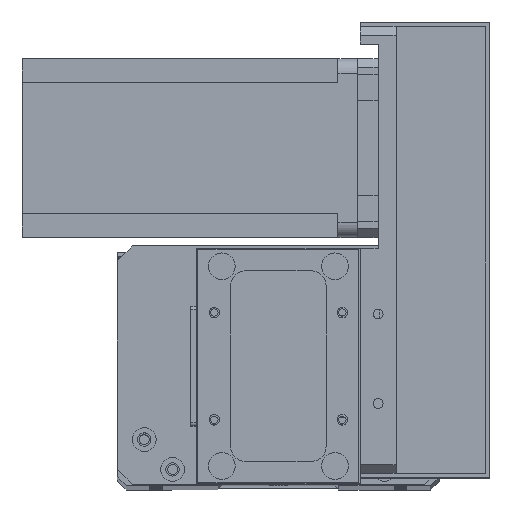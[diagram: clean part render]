
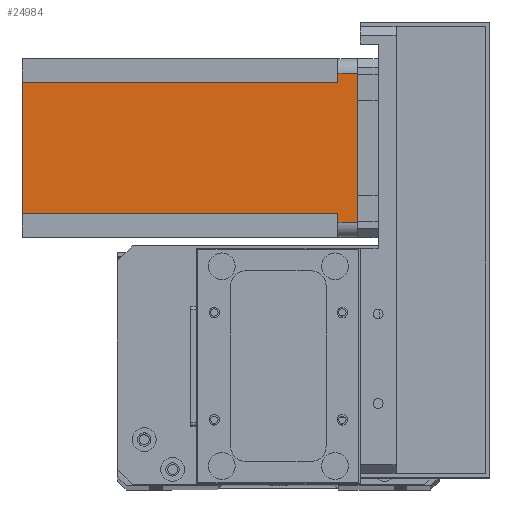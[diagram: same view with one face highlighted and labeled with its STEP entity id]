
A CAD part, top view. The second image highlights one B-rep face of the part: STEP entity #24984.
In plain terms, the highlighted planar face has unit normal (0, 0, 1) as drawn and (0, 1, 0) by its records, which use the part's own axes.
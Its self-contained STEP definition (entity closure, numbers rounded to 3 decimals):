
#7 = EDGE_CURVE ( 'NONE', #24857, #21241, #27272, .T. ) ;
#98 = AXIS2_PLACEMENT_3D ( 'NONE', #18211, #22870, #9044 ) ;
#543 = CARTESIAN_POINT ( 'NONE',  ( 0., 60., 0. ) ) ;
#2285 = ORIENTED_EDGE ( 'NONE', *, *, #14258, .F. ) ;
#2382 = DIRECTION ( 'NONE',  ( -1., 0., 0. ) ) ;
#2389 = DIRECTION ( 'NONE',  ( 1., 0., 0. ) ) ;
#2604 = CARTESIAN_POINT ( 'NONE',  ( 5., 60., -6.5 ) ) ;
#3463 = EDGE_CURVE ( 'NONE', #8084, #20281, #23944, .T. ) ;
#3582 = VECTOR ( 'NONE', #19803, 1000. ) ;
#3717 = ORIENTED_EDGE ( 'NONE', *, *, #27891, .T. ) ;
#7471 = CARTESIAN_POINT ( 'NONE',  ( 52., 60., -112.5 ) ) ;
#7543 = CARTESIAN_POINT ( 'NONE',  ( 52., 60., -112.5 ) ) ;
#8084 = VERTEX_POINT ( 'NONE', #7471 ) ;
#8323 = VECTOR ( 'NONE', #2382, 1000. ) ;
#8791 = ORIENTED_EDGE ( 'NONE', *, *, #9770, .T. ) ;
#9044 = DIRECTION ( 'NONE',  ( 0., 0., 1. ) ) ;
#9362 = DIRECTION ( 'NONE',  ( 0., 0., 1. ) ) ;
#9381 = CARTESIAN_POINT ( 'NONE',  ( 5., 60., 0. ) ) ;
#9770 = EDGE_CURVE ( 'NONE', #24857, #27266, #29523, .T. ) ;
#10266 = ORIENTED_EDGE ( 'NONE', *, *, #26355, .T. ) ;
#10477 = CARTESIAN_POINT ( 'NONE',  ( 8., 60., -6.5 ) ) ;
#10579 = LINE ( 'NONE', #25528, #17447 ) ;
#11190 = LINE ( 'NONE', #18557, #17320 ) ;
#11513 = CARTESIAN_POINT ( 'NONE',  ( 8., 60., -6.5 ) ) ;
#13259 = ORIENTED_EDGE ( 'NONE', *, *, #3463, .T. ) ;
#14258 = EDGE_CURVE ( 'NONE', #20814, #27266, #11190, .T. ) ;
#14481 = LINE ( 'NONE', #11513, #8323 ) ;
#15157 = DIRECTION ( 'NONE',  ( -1., 0., 0. ) ) ;
#16250 = CARTESIAN_POINT ( 'NONE',  ( 55., 60., -112.5 ) ) ;
#16295 = ORIENTED_EDGE ( 'NONE', *, *, #21365, .F. ) ;
#17230 = VECTOR ( 'NONE', #23207, 1000. ) ;
#17320 = VECTOR ( 'NONE', #2389, 1000. ) ;
#17447 = VECTOR ( 'NONE', #9362, 1000. ) ;
#17491 = CARTESIAN_POINT ( 'NONE',  ( 8., 60., -112.5 ) ) ;
#17812 = VECTOR ( 'NONE', #15157, 1000. ) ;
#18211 = CARTESIAN_POINT ( 'NONE',  ( 0., 60., -112.5 ) ) ;
#18557 = CARTESIAN_POINT ( 'NONE',  ( 52., 60., -6.5 ) ) ;
#18825 = LINE ( 'NONE', #7543, #24256 ) ;
#19496 = VERTEX_POINT ( 'NONE', #10477 ) ;
#19803 = DIRECTION ( 'NONE',  ( 0., 0., -1. ) ) ;
#19920 = CARTESIAN_POINT ( 'NONE',  ( 55., 60., 0. ) ) ;
#20281 = VERTEX_POINT ( 'NONE', #22758 ) ;
#20814 = VERTEX_POINT ( 'NONE', #29387 ) ;
#20821 = CARTESIAN_POINT ( 'NONE',  ( 55., 60., -6.5 ) ) ;
#21122 = VECTOR ( 'NONE', #23799, 1000. ) ;
#21241 = VERTEX_POINT ( 'NONE', #9381 ) ;
#21365 = EDGE_CURVE ( 'NONE', #8084, #20814, #18825, .T. ) ;
#22758 = CARTESIAN_POINT ( 'NONE',  ( 8., 60., -112.5 ) ) ;
#22870 = DIRECTION ( 'NONE',  ( 0., 1., 0. ) ) ;
#23207 = DIRECTION ( 'NONE',  ( 0., 0., -1. ) ) ;
#23718 = DIRECTION ( 'NONE',  ( 0., 0., 1. ) ) ;
#23789 = VERTEX_POINT ( 'NONE', #2604 ) ;
#23799 = DIRECTION ( 'NONE',  ( -1., 0., 0. ) ) ;
#23944 = LINE ( 'NONE', #28995, #17812 ) ;
#24256 = VECTOR ( 'NONE', #23718, 1000. ) ;
#24857 = VERTEX_POINT ( 'NONE', #19920 ) ;
#24984 = ADVANCED_FACE ( 'NONE', ( #29099 ), #27432, .T. ) ;
#25528 = CARTESIAN_POINT ( 'NONE',  ( 5., 60., -112.5 ) ) ;
#26027 = EDGE_LOOP ( 'NONE', ( #26834, #8791, #2285, #16295, #13259, #27969, #3717, #10266 ) ) ;
#26355 = EDGE_CURVE ( 'NONE', #23789, #21241, #10579, .T. ) ;
#26834 = ORIENTED_EDGE ( 'NONE', *, *, #7, .F. ) ;
#27266 = VERTEX_POINT ( 'NONE', #20821 ) ;
#27272 = LINE ( 'NONE', #543, #21122 ) ;
#27432 = PLANE ( 'NONE',  #98 ) ;
#27891 = EDGE_CURVE ( 'NONE', #19496, #23789, #14481, .T. ) ;
#27969 = ORIENTED_EDGE ( 'NONE', *, *, #29953, .F. ) ;
#28203 = LINE ( 'NONE', #17491, #3582 ) ;
#28995 = CARTESIAN_POINT ( 'NONE',  ( 0., 60., -112.5 ) ) ;
#29099 = FACE_OUTER_BOUND ( 'NONE', #26027, .T. ) ;
#29387 = CARTESIAN_POINT ( 'NONE',  ( 52., 60., -6.5 ) ) ;
#29523 = LINE ( 'NONE', #16250, #17230 ) ;
#29953 = EDGE_CURVE ( 'NONE', #19496, #20281, #28203, .T. ) ;
